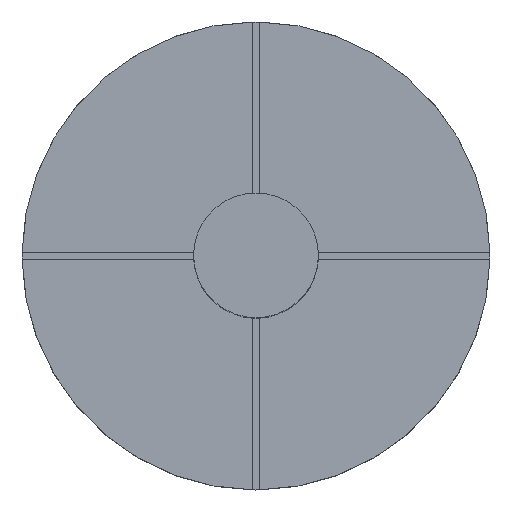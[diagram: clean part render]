
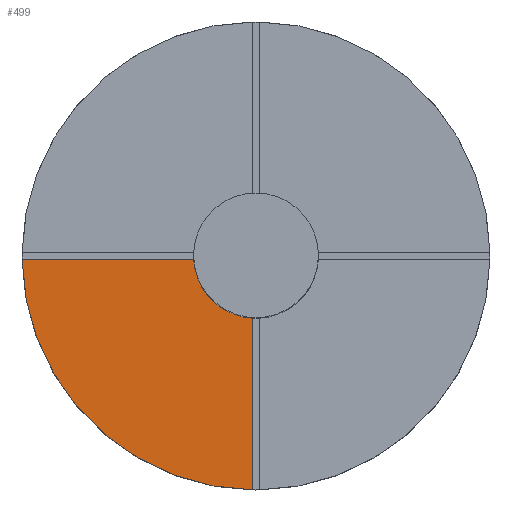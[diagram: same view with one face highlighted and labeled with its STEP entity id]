
A CAD part, top view. The second image highlights one B-rep face of the part: STEP entity #499.
In plain terms, the highlighted planar face has unit normal (0, 0, 1).
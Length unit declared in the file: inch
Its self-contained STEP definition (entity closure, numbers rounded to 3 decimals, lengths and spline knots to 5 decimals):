
#82=CARTESIAN_POINT('',(0.,0.,0.01));
#83=DIRECTION('',(0.,0.,1.));
#84=DIRECTION('',(-0.999,-0.05,0.));
#85=AXIS2_PLACEMENT_3D('',#82,#83,#84);
#87=DIRECTION('',(0.,-1.,0.));
#88=VECTOR('',#87,0.02751);
#89=CARTESIAN_POINT('',(-0.0005,-0.00999,0.01));
#90=LINE('',#89,#88);
#91=CARTESIAN_POINT('',(0.,0.,0.01));
#92=DIRECTION('',(0.,0.,1.));
#93=DIRECTION('',(-1.,-0.013,0.));
#94=AXIS2_PLACEMENT_3D('',#91,#92,#93);
#96=DIRECTION('',(1.,0.,0.));
#97=VECTOR('',#96,0.02751);
#98=CARTESIAN_POINT('',(-0.0375,-0.0005,0.01));
#99=LINE('',#98,#97);
#215=CARTESIAN_POINT('',(-0.0375,-0.0005,0.01));
#217=CARTESIAN_POINT('',(-0.0005,-0.0375,0.01));
#311=VERTEX_POINT('',#215);
#312=VERTEX_POINT('',#217);
#331=CARTESIAN_POINT('',(-0.00999,-0.0005,0.01));
#332=CARTESIAN_POINT('',(-0.0005,-0.00999,0.01));
#333=VERTEX_POINT('',#331);
#334=VERTEX_POINT('',#332);
#484=CARTESIAN_POINT('',(0.,0.,0.01));
#485=DIRECTION('',(0.,0.,1.));
#486=DIRECTION('',(1.,0.,0.));
#487=AXIS2_PLACEMENT_3D('',#484,#485,#486);
#488=PLANE('',#487);
#490=ORIENTED_EDGE('',*,*,#489,.T.);
#492=ORIENTED_EDGE('',*,*,#491,.T.);
#494=ORIENTED_EDGE('',*,*,#493,.F.);
#496=ORIENTED_EDGE('',*,*,#495,.T.);
#497=EDGE_LOOP('',(#490,#492,#494,#496));
#498=FACE_OUTER_BOUND('',#497,.F.);
#499=ADVANCED_FACE('',(#498),#488,.T.);
#86=CIRCLE('',#85,0.01);
#95=CIRCLE('',#94,0.0375);
#489=EDGE_CURVE('',#333,#334,#86,.T.);
#491=EDGE_CURVE('',#334,#312,#90,.T.);
#493=EDGE_CURVE('',#311,#312,#95,.T.);
#495=EDGE_CURVE('',#311,#333,#99,.T.);
